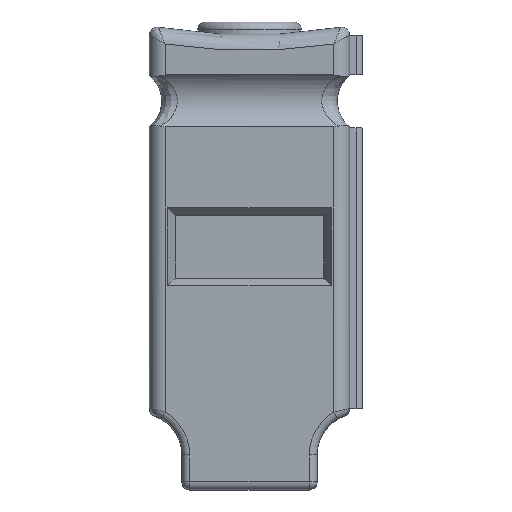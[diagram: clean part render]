
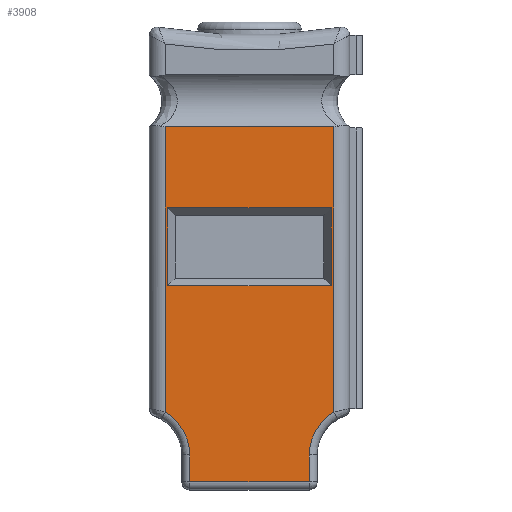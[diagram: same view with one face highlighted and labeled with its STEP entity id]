
A CAD part, top view. The second image highlights one B-rep face of the part: STEP entity #3908.
In plain terms, the highlighted planar face has unit normal (0, 0, 1).
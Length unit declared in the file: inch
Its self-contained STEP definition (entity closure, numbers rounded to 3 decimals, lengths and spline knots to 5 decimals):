
#2192=CARTESIAN_POINT('',(4.00272,3.57779,0.62));
#2193=VERTEX_POINT('',#2192);
#2205=CARTESIAN_POINT('',(4.00272,4.67537,0.62));
#2206=VERTEX_POINT('',#2205);
#2207=CARTESIAN_POINT('',(4.00272,3.57779,0.62));
#2208=DIRECTION('',(0.0,1.0,0.0));
#2209=VECTOR('',#2208,1.09758);
#2210=LINE('',#2207,#2209);
#2211=EDGE_CURVE('',#2193,#2206,#2210,.T.);
#2443=CARTESIAN_POINT('',(4.65272,4.67537,0.62));
#2444=VERTEX_POINT('',#2443);
#2452=CARTESIAN_POINT('',(4.65272,3.57779,0.62));
#2453=VERTEX_POINT('',#2452);
#2454=CARTESIAN_POINT('',(4.65272,4.67537,0.62));
#2455=DIRECTION('',(0.0,-1.0,0.0));
#2456=VECTOR('',#2455,1.09758);
#2457=LINE('',#2454,#2456);
#2458=EDGE_CURVE('',#2444,#2453,#2457,.T.);
#2521=CARTESIAN_POINT('',(4.09772,3.41325,0.62));
#2522=VERTEX_POINT('',#2521);
#2538=CARTESIAN_POINT('',(4.09772,3.30937,0.62));
#2539=VERTEX_POINT('',#2538);
#2547=CARTESIAN_POINT('',(4.09772,3.30937,0.62));
#2548=DIRECTION('',(0.0,1.0,0.0));
#2549=VECTOR('',#2548,0.10388);
#2550=LINE('',#2547,#2549);
#2551=EDGE_CURVE('',#2539,#2522,#2550,.T.);
#2576=CARTESIAN_POINT('',(4.55772,3.30937,0.62));
#2577=VERTEX_POINT('',#2576);
#2585=CARTESIAN_POINT('',(4.55772,3.30937,0.62));
#2586=DIRECTION('',(-1.0,0.0,0.0));
#2587=VECTOR('',#2586,0.46);
#2588=LINE('',#2585,#2587);
#2589=EDGE_CURVE('',#2577,#2539,#2588,.T.);
#2616=CARTESIAN_POINT('',(4.55772,3.41325,0.62));
#2617=VERTEX_POINT('',#2616);
#2625=CARTESIAN_POINT('',(4.55772,3.41325,0.62));
#2626=DIRECTION('',(0.0,-1.0,0.0));
#2627=VECTOR('',#2626,0.10388);
#2628=LINE('',#2625,#2627);
#2629=EDGE_CURVE('',#2617,#2577,#2628,.T.);
#3514=CARTESIAN_POINT('',(4.74772,3.41325,0.62));
#3515=DIRECTION('',(0.0,0.0,1.0));
#3516=DIRECTION('',(-0.893,0.451,0.0));
#3517=AXIS2_PLACEMENT_3D('',#3514,#3515,#3516);
#3518=CIRCLE('',#3517,0.19);
#3519=EDGE_CURVE('',#2453,#2617,#3518,.T.);
#3626=CARTESIAN_POINT('',(3.90772,3.41325,0.62));
#3627=DIRECTION('',(0.0,0.0,1.0));
#3628=DIRECTION('',(0.893,0.451,0.0));
#3629=AXIS2_PLACEMENT_3D('',#3626,#3627,#3628);
#3630=CIRCLE('',#3629,0.19);
#3631=EDGE_CURVE('',#2522,#2193,#3630,.T.);
#3854=CARTESIAN_POINT('',(4.32772,4.20582,0.62));
#3855=DIRECTION('',(0.0,0.0,-1.0));
#3856=DIRECTION('',(-1.0,0.0,0.0));
#3857=AXIS2_PLACEMENT_3D('',#3854,#3855,#3856);
#3858=PLANE('',#3857);
#3859=ORIENTED_EDGE('',*,*,#3519,.F.);
#3860=ORIENTED_EDGE('',*,*,#2458,.F.);
#3861=CARTESIAN_POINT('',(4.65272,4.67537,0.62));
#3862=DIRECTION('',(-1.0,0.0,0.0));
#3863=VECTOR('',#3862,0.65);
#3864=LINE('',#3861,#3863);
#3865=EDGE_CURVE('',#2444,#2206,#3864,.T.);
#3866=ORIENTED_EDGE('',*,*,#3865,.T.);
#3867=ORIENTED_EDGE('',*,*,#2211,.F.);
#3868=ORIENTED_EDGE('',*,*,#3631,.F.);
#3869=ORIENTED_EDGE('',*,*,#2551,.F.);
#3870=ORIENTED_EDGE('',*,*,#2589,.F.);
#3871=ORIENTED_EDGE('',*,*,#2629,.F.);
#3872=EDGE_LOOP('',(#3859,#3860,#3866,#3867,#3868,#3869,#3870,#3871));
#3873=FACE_OUTER_BOUND('',#3872,.T.);
#3874=CARTESIAN_POINT('',(4.64272,4.06437,0.62));
#3875=VERTEX_POINT('',#3874);
#3876=CARTESIAN_POINT('',(4.01272,4.06437,0.62));
#3877=VERTEX_POINT('',#3876);
#3878=CARTESIAN_POINT('',(4.64272,4.06437,0.62));
#3879=DIRECTION('',(-1.0,0.0,0.0));
#3880=VECTOR('',#3879,0.63);
#3881=LINE('',#3878,#3880);
#3882=EDGE_CURVE('',#3875,#3877,#3881,.T.);
#3883=ORIENTED_EDGE('',*,*,#3882,.T.);
#3884=CARTESIAN_POINT('',(4.01272,4.36437,0.62));
#3885=VERTEX_POINT('',#3884);
#3886=CARTESIAN_POINT('',(4.01272,4.06437,0.62));
#3887=DIRECTION('',(0.0,1.0,0.0));
#3888=VECTOR('',#3887,0.3);
#3889=LINE('',#3886,#3888);
#3890=EDGE_CURVE('',#3877,#3885,#3889,.T.);
#3891=ORIENTED_EDGE('',*,*,#3890,.T.);
#3892=CARTESIAN_POINT('',(4.64272,4.36437,0.62));
#3893=VERTEX_POINT('',#3892);
#3894=CARTESIAN_POINT('',(4.01272,4.36437,0.62));
#3895=DIRECTION('',(1.0,0.0,0.0));
#3896=VECTOR('',#3895,0.63);
#3897=LINE('',#3894,#3896);
#3898=EDGE_CURVE('',#3885,#3893,#3897,.T.);
#3899=ORIENTED_EDGE('',*,*,#3898,.T.);
#3900=CARTESIAN_POINT('',(4.64272,4.36437,0.62));
#3901=DIRECTION('',(0.0,-1.0,0.0));
#3902=VECTOR('',#3901,0.3);
#3903=LINE('',#3900,#3902);
#3904=EDGE_CURVE('',#3893,#3875,#3903,.T.);
#3905=ORIENTED_EDGE('',*,*,#3904,.T.);
#3906=EDGE_LOOP('',(#3883,#3891,#3899,#3905));
#3907=FACE_BOUND('',#3906,.T.);
#3908=ADVANCED_FACE('',(#3873,#3907),#3858,.F.);
